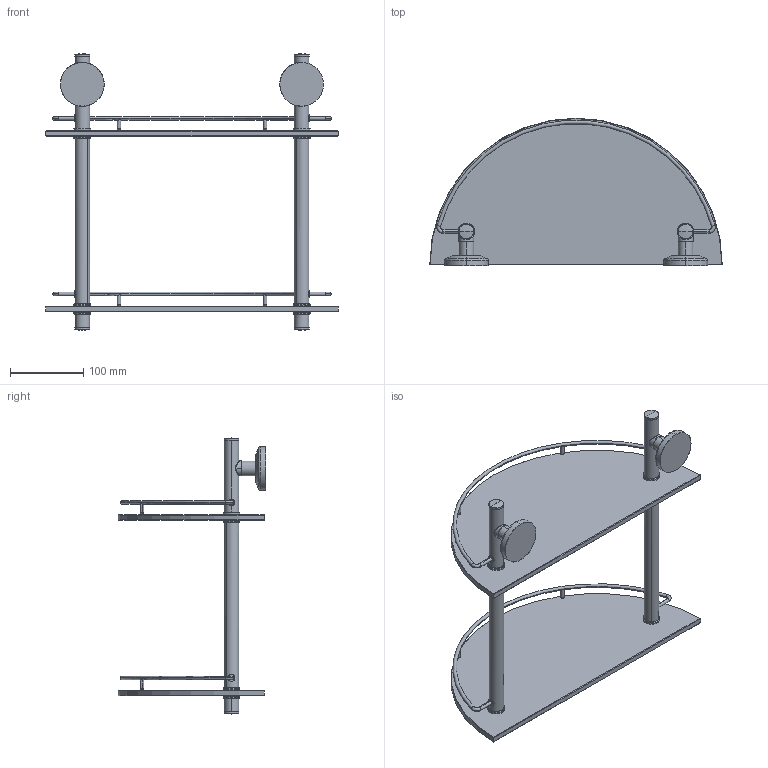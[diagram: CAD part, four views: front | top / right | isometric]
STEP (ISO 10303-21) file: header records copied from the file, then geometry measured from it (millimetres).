
FILE_DESCRIPTION(('THIS FILE CONTAINS SOME STEP INSTANCES'),'1');
FILE_NAME('sta_081.stp','2015-12-10T11:37:51',('UNDEFINED'),('UNDEFINED'),'T-FLEX CAD STEP converter','T-FLEX CAD','');
FILE_SCHEMA(('CONFIG_CONTROL_DESIGN'));
Length unit declared in the file: metre
Products named in the file (6): 砱鋋_24; 3D 鐨飹懤艜_49; 砱鋋_23
Bounding box: 400 x 201.9 x 378.4 mm (x, y, z)
Volume: 1338565.2 mm3; surface area: 354801.5 mm2
Topology: 6 solids, 10 shells, 338 faces, 802 edges, 488 vertices
Faces by surface type: cylinder 118, cone 60, plane 56, bspline 56, torus 40, sphere 8
Entity records: 24525 total; most frequent: CARTESIAN_POINT 18287, ORIENTED_EDGE 1556, DIRECTION 876, EDGE_CURVE 778, VERTEX_POINT 488, EDGE_LOOP 374, AXIS2_PLACEMENT_3D 348, ADVANCED_FACE 338
